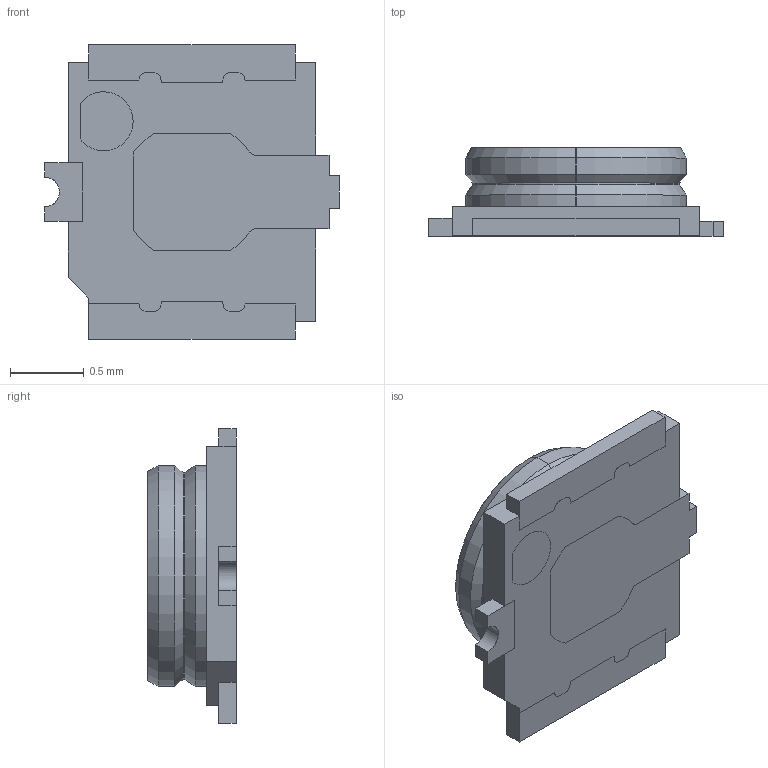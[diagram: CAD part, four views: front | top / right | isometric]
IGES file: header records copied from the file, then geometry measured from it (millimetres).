
Start section: SolidWorks IGES file using analytic representation for surfaces
Global section: file name: C:\Users\3DCAD\Desktop\RECEモデル　（ファイル名修正）\5 MHF 4\20449-001EC RECE ASSY IGES R5 ALL.IGS; native system: SolidWorks 2017; preprocessor: SolidWorks 2017; author: 3dcad; date: 180425.165713; units: millimetre
Bounding box: 2 x 0.6 x 2 mm (x, y, z)
Surface area: 13.4 mm2 (no closed solid volume)
Topology: 0 solids, 0 shells, 53 faces, 428 edges, 428 vertices
Faces by surface type: bspline 32, revolution 21
